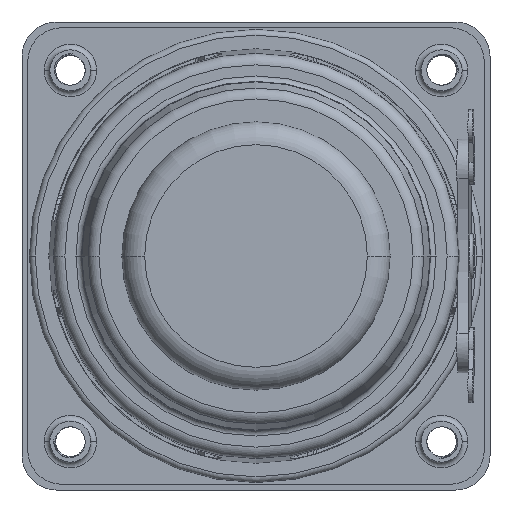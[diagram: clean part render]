
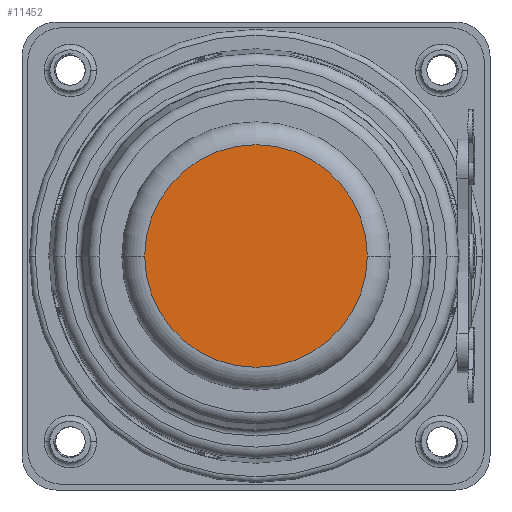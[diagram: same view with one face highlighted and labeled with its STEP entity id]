
A CAD part, front view. The second image highlights one B-rep face of the part: STEP entity #11452.
In plain terms, the highlighted planar face has unit normal (0, -1, 0).
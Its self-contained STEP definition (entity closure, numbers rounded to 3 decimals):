
#5179=CARTESIAN_POINT('',(0.,-2.2,0.));
#5180=DIRECTION('',(0.,1.,0.));
#5181=DIRECTION('',(1.,0.,0.));
#5182=AXIS2_PLACEMENT_3D('',#5179,#5180,#5181);
#5187=CARTESIAN_POINT('',(0.,-2.2,0.));
#5188=DIRECTION('',(0.,-1.,0.));
#5189=DIRECTION('',(1.,0.,0.));
#5190=AXIS2_PLACEMENT_3D('',#5187,#5188,#5189);
#5511=CARTESIAN_POINT('',(9.75,-2.2,0.));
#5513=VERTEX_POINT('',#5511);
#5515=CARTESIAN_POINT('',(-9.75,-2.2,0.));
#5517=VERTEX_POINT('',#5515);
#11443=CARTESIAN_POINT('',(0.,-2.2,0.));
#11444=DIRECTION('',(0.,-1.,0.));
#11445=DIRECTION('',(-1.,0.,0.));
#11446=AXIS2_PLACEMENT_3D('',#11443,#11444,#11445);
#11447=PLANE('',#11446);
#11448=ORIENTED_EDGE('',*,*,#11411,.T.);
#11449=ORIENTED_EDGE('',*,*,#11429,.F.);
#11450=EDGE_LOOP('',(#11448,#11449));
#11451=FACE_OUTER_BOUND('',#11450,.F.);
#11452=ADVANCED_FACE('',(#11451),#11447,.T.);
#5183=CIRCLE('',#5182,9.75);
#5191=CIRCLE('',#5190,9.75);
#11411=EDGE_CURVE('',#5513,#5517,#5183,.T.);
#11429=EDGE_CURVE('',#5513,#5517,#5191,.T.);
